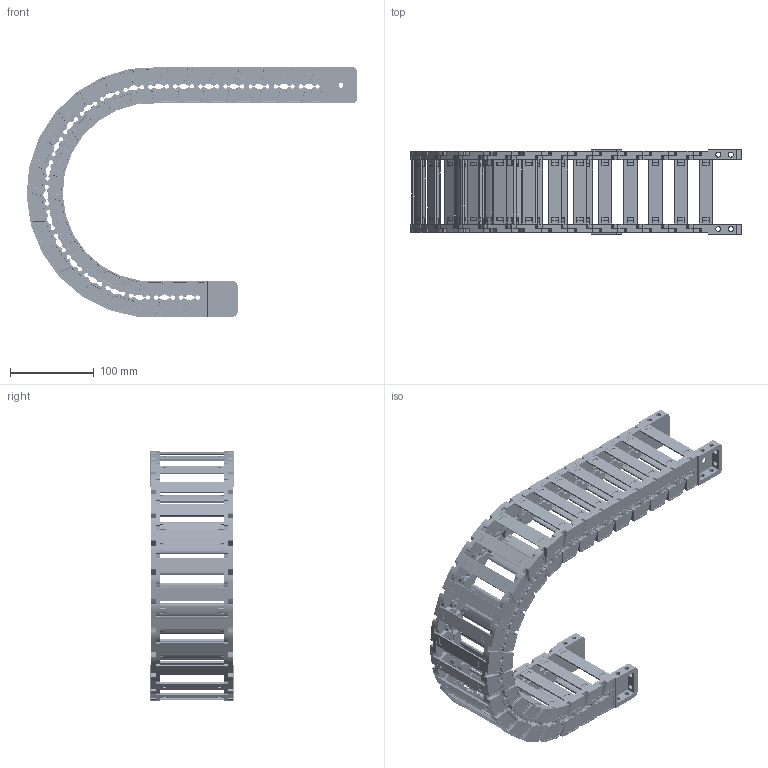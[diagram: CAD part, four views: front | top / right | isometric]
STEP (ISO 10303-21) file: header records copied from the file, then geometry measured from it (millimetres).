
FILE_DESCRIPTION((''),'2;1');
FILE_NAME('JY-35X77-R125_ASM','2025-01-05T19:45:05',('admin'),(''),'CREO PARAMETRIC BY PTC INC, 2021023','CREO PARAMETRIC BY PTC INC, 2021023','');
FILE_SCHEMA(('CONFIG_CONTROL_DESIGN'));
Length unit declared in the file: millimetre
Products named in the file (11): 35XL-L; YP; 35XL-R; ASM0001_ASM; 35-LTT-A-L; 35-LTT-A-R; 35XL-LTT-A_ASM; 35-LTT-B-L; 35-LTT-B-R; 35XL-LTT-B_ASM; JY-35X77-R125_ASM
Assembly tree (35 placements, depth 3):
  JY-35X77-R125_ASM
    ASM0001_ASM  x21
      35XL-L
      YP
      35XL-R
    35XL-LTT-A_ASM
      35-LTT-A-L
      YP  x2
      35-LTT-A-R
    35XL-LTT-B_ASM
      35-LTT-B-L
      YP  x2
      35-LTT-B-R
Bounding box: 395.09 x 101 x 298.23 mm (x, y, z)
Volume: 673691.9 mm3; surface area: 403373.6 mm2
Topology: 92 solids, 92 shells, 7504 faces, 22500 edges, 15188 vertices
Faces by surface type: plane 4246, cylinder 2466, cone 484, extrusion 176, bspline 132
Entity records: 27890 total; most frequent: CARTESIAN_POINT 6168, ORIENTED_EDGE 4640, DIRECTION 4365, EDGE_CURVE 2320, VERTEX_POINT 1568, AXIS2_PLACEMENT_3D 1474, VECTOR 1417, LINE 1401
